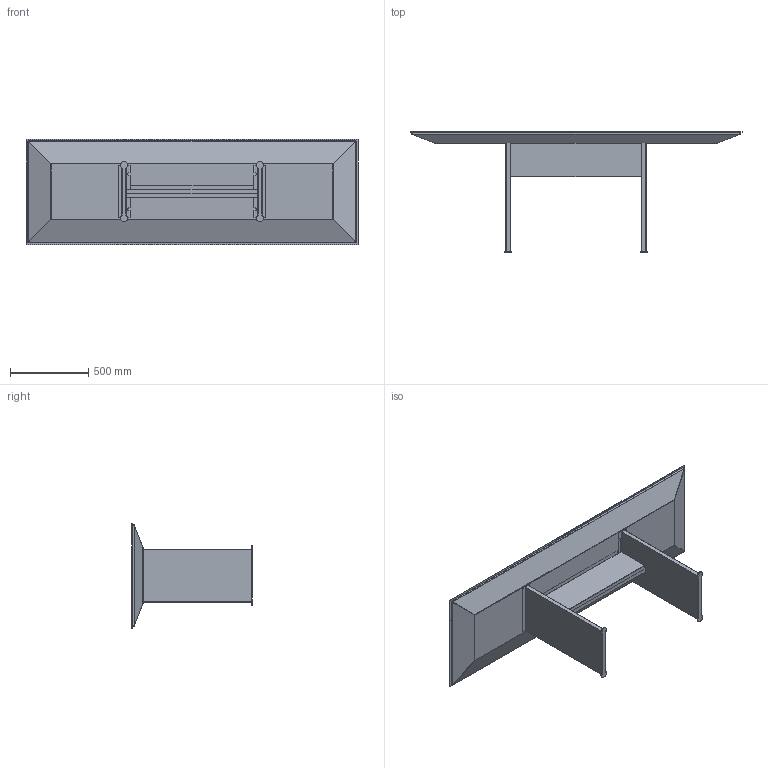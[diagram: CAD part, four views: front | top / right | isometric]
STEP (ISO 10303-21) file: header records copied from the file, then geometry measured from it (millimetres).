
FILE_DESCRIPTION (( 'STEP AP214' ), '1' );
FILE_NAME ('Eskoleia UNIT 001 - Simple.STEP', '2026-09-12T20:17:53', ( '' ), ( '' ), 'SwSTEP 2.0', 'SolidWorks 2025', '' );
FILE_SCHEMA (( 'AUTOMOTIVE_DESIGN' ));
Length unit declared in the file: millimetre
Products named in the file (1): Eskoleia UNIT 001 - Simple
Bounding box: 2125 x 771.25 x 676.59 mm (x, y, z)
Volume: 12409089 mm3; surface area: 9793535.7 mm2
Topology: 1 solids, 2 shells, 350 faces, 1016 edges, 666 vertices
Faces by surface type: plane 290, bspline 36, cylinder 24
Entity records: 12769 total; most frequent: CARTESIAN_POINT 3797, ORIENTED_EDGE 2032, DIRECTION 1574, EDGE_CURVE 1016, LINE 832, VECTOR 832, VERTEX_POINT 666, AXIS2_PLACEMENT_3D 371
